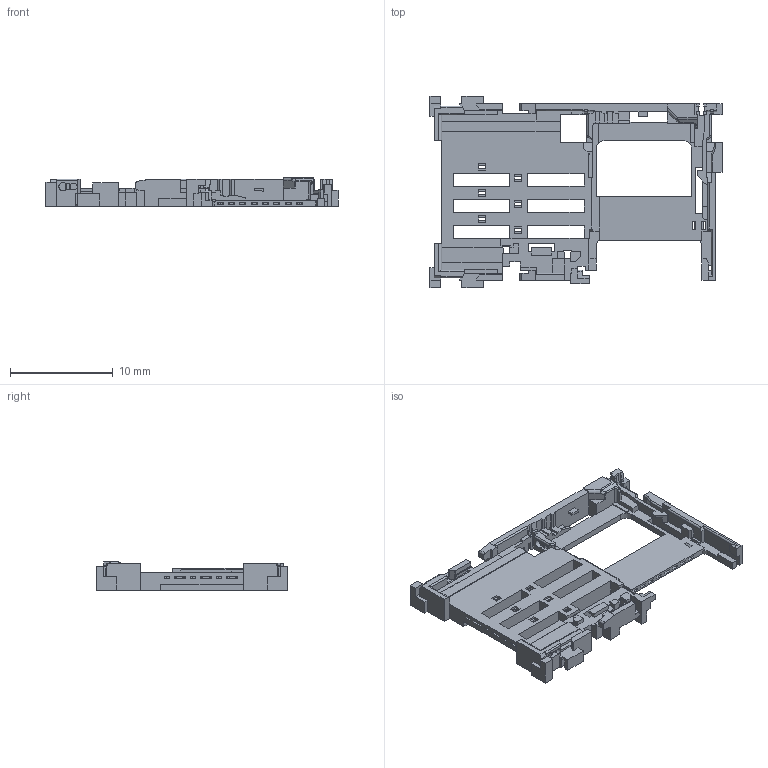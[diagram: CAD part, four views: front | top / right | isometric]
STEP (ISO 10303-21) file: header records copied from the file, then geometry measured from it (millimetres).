
FILE_DESCRIPTION((''),'2;1');
FILE_NAME('I-DSC20-A14XX0_AF0_1_PRT','2008-06-30T',('GRA'),(''),'PRO/ENGINEER BY PARAMETRIC TECHNOLOGY CORPORATION, 2006170','PRO/ENGINEER BY PARAMETRIC TECHNOLOGY CORPORATION, 2006170','');
FILE_SCHEMA(('CONFIG_CONTROL_DESIGN'));
Length unit declared in the file: millimetre
Products named in the file (1): I-DSC20-A14XX0_AF0_1_PRT
Bounding box: 28.4 x 18.6 x 2.8 mm (x, y, z)
Volume: 377.1 mm3; surface area: 1387.4 mm2
Topology: 1 solids, 1 shells, 872 faces, 2593 edges, 1719 vertices
Faces by surface type: plane 771, cylinder 96, bspline 4, sphere 1
Entity records: 29174 total; most frequent: CARTESIAN_POINT 5428, ORIENTED_EDGE 5184, DIRECTION 4534, EDGE_CURVE 2592, VECTOR 2340, LINE 2340, VERTEX_POINT 1719, AXIS2_PLACEMENT_3D 1097
